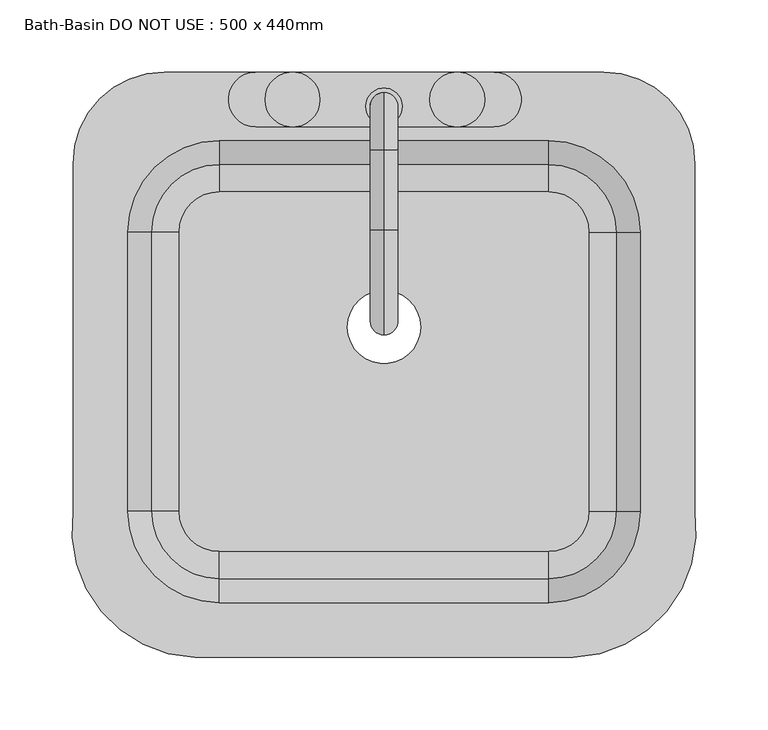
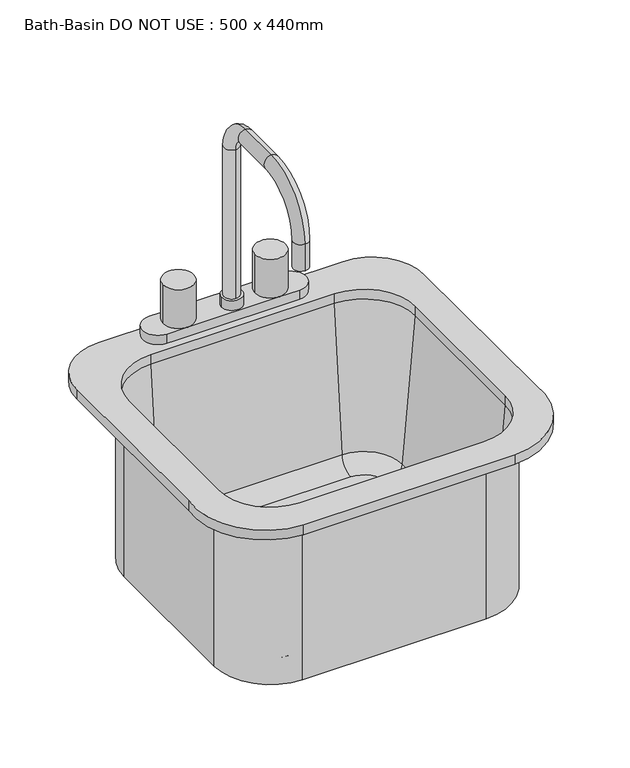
"""IFC4 building model written with IfcOpenShell, lengths in millimetres: flow terminal geometry, Bath-Basin DO NOT USE : 500 x 440mm."""

from ifc_helpers import new_model, si_unit, point, frame, origin, place, context, project, spatial, polyline, circle_curve, ellipse_curve, trimmed, source, transform, mapped, element, save
from ifc_brep_helpers import plane_surface, cylinder_surface, revolved_surface, advanced_brep


def bath_basin_do_not_use_500_x_440mm_190d0d28(model_context):
    return source(origin(), model_context, "Body", "AdvancedBrep", [
        advanced_brep(
        [(199.8392406, 69.0204011, 546.1), (129.9892406, 138.8704011, 546.1), (129.9892406, 138.8704011, 762.0), (199.8392406, 69.0204011, 762.0), (199.8392406, -124.6545989, 546.1), (129.9892406, -194.5045989, 546.1), (-98.6107595, -194.5045989, 546.1), (-168.4607595, -124.6545989, 546.1), (-168.4607595, 69.0204011, 546.1), (-98.6107595, 138.8704011, 546.1), (-9.7107594, 3.175, 546.1), (41.0892406, 3.175, 546.1), (157.9776588, 69.0204011, 555.625), (129.9892406, 97.0088193, 555.625), (-98.6107595, 97.0088193, 555.625), (-126.5991777, 69.0204011, 555.625), (-126.5991777, -124.6545989, 555.625), (-98.6107595, -152.6430171, 555.625), (129.9892406, -152.6430171, 555.625), (157.9776588, -124.6545989, 555.625), (-9.7107594, 3.175, 555.625), (41.0892406, 3.175, 555.625), (176.9551678, 69.0204011, 573.0146831), (129.9892406, 115.9863283, 573.0146831), (193.4892406, 69.0204011, 762.0), (129.9892406, 132.5204011, 762.0), (199.8392406, -124.6545989, 762.0), (176.9551678, -124.6545989, 573.0146831), (193.4892406, -124.6545989, 762.0), (129.9892406, -194.5045989, 762.0), (129.9892406, -171.6205261, 573.0146831), (129.9892406, -188.1545989, 762.0), (-98.6107595, -194.5045989, 762.0), (-98.6107595, -171.6205261, 573.0146831), (-98.6107595, -188.1545989, 762.0), (-168.4607595, -124.6545989, 762.0), (-145.5766867, -124.6545989, 573.0146831), (-162.1107595, -124.6545989, 762.0), (-168.4607595, 69.0204011, 762.0), (-145.5766867, 69.0204011, 573.0146831), (-162.1107595, 69.0204011, 762.0), (-98.6107595, 138.8704011, 762.0), (-98.6107595, 115.9863283, 573.0146831), (-98.6107595, 132.5204011, 762.0), (-115.8606924, -226.2545989, 774.7), (147.2391735, -226.2545989, 774.7), (231.5892406, -124.6545989, 774.7), (231.5892406, 116.6454011, 774.7), (168.0892406, 180.1454011, 774.7), (-136.7107594, 180.1454011, 774.7), (-200.2107594, 116.6454011, 774.7), (-200.2107594, -124.6545982, 774.7), (129.9892406, 132.5204011, 774.7), (193.4892406, 69.0204011, 774.7), (193.4892406, -124.6545989, 774.7), (129.9892406, -188.1545989, 774.7), (-98.6107595, -188.1545989, 774.7), (-162.1107595, -124.6545989, 774.7), (-162.1107595, 69.0204011, 774.7), (-98.6107595, 132.5204011, 774.7), (-115.8606924, -226.2545989, 762.0), (-200.2107594, -124.6545982, 762.0), (-200.2107594, 116.6454011, 762.0), (-136.7107594, 180.1454011, 762.0), (168.0892406, 180.1454011, 762.0), (231.5892406, 116.6454011, 762.0), (231.5892406, -124.6545989, 762.0), (147.2391735, -226.2545989, 762.0)],
        [
            (0, 1, circle_curve(frame((129.9892406, 69.0204011, 546.1), z_axis=(0.0, 0.0, 1.0), x_axis=(0.0, 1.0, 0.0)), 69.85)),
            (1, 2),
            (2, 3, circle_curve(frame((129.9892406, 69.0204011, 762.0), z_axis=(0.0, 0.0, -1.0), x_axis=(0.0, 1.0, 0.0)), 69.85)),
            (3, 0),
            (0, 4),
            (4, 5, circle_curve(frame((129.9892406, -124.6545989, 546.1), z_axis=(0.0, 0.0, -1.0), x_axis=(1.0, 0.0, 0.0)), 69.85)),
            (5, 6),
            (6, 7, circle_curve(frame((-98.6107595, -124.6545989, 546.1), z_axis=(0.0, 0.0, -1.0), x_axis=(0.0, -1.0, 0.0)), 69.85)),
            (7, 8),
            (8, 9, circle_curve(frame((-98.6107595, 69.0204011, 546.1), z_axis=(0.0, 0.0, -1.0), x_axis=(-1.0, 0.0, 0.0)), 69.85)),
            (9, 1),
            (10, 11, circle_curve(frame((15.6892406, 3.175, 546.1), z_axis=(0.0, 0.0, 1.0), x_axis=(1.0, 0.0, 0.0)), 25.4)),
            (11, 10, circle_curve(frame((15.6892406, 3.175, 546.1), z_axis=(0.0, 0.0, 1.0), x_axis=(1.0, 0.0, 0.0)), 25.4)),
            (12, 13, circle_curve(frame((129.9892406, 69.0204011, 555.625), z_axis=(0.0, 0.0, 1.0), x_axis=(0.0, 1.0, 0.0)), 27.9884182)),
            (13, 14),
            (14, 15, circle_curve(frame((-98.6107595, 69.0204011, 555.625), z_axis=(0.0, 0.0, 1.0), x_axis=(-1.0, 0.0, 0.0)), 27.9884182)),
            (15, 16),
            (16, 17, circle_curve(frame((-98.6107595, -124.6545989, 555.625), z_axis=(0.0, 0.0, 1.0), x_axis=(0.0, -1.0, 0.0)), 27.9884182)),
            (17, 18),
            (18, 19, circle_curve(frame((129.9892406, -124.6545989, 555.625), z_axis=(0.0, 0.0, 1.0), x_axis=(1.0, 0.0, 0.0)), 27.9884182)),
            (19, 12),
            (20, 21, circle_curve(frame((15.6892406, 3.175, 555.625), z_axis=(0.0, 0.0, -1.0), x_axis=(1.0, 0.0, 0.0)), 25.4)),
            (21, 20, circle_curve(frame((15.6892406, 3.175, 555.625), z_axis=(0.0, 0.0, -1.0), x_axis=(1.0, 0.0, 0.0)), 25.4)),
            (12, 22, circle_curve(frame((157.9776588, 69.0204011, 574.675), z_axis=(0.0, -1.0, 0.0), x_axis=(1.0, 0.0, 0.0)), 19.05)),
            (22, 23, circle_curve(frame((129.9892406, 69.0204011, 573.0146831), z_axis=(0.0, 0.0, 1.0), x_axis=(0.0, 1.0, 0.0)), 46.9659272)),
            (23, 13, circle_curve(frame((129.9892406, 97.0088193, 574.675), z_axis=(-1.0, 0.0, 0.0), x_axis=(0.0, 1.0, 0.0)), 19.05)),
            (22, 24),
            (24, 25, circle_curve(frame((129.9892406, 69.0204011, 762.0), z_axis=(0.0, 0.0, 1.0), x_axis=(0.0, 1.0, 0.0)), 63.5)),
            (25, 23),
            (3, 26),
            (26, 4),
            (19, 27, circle_curve(frame((157.9776588, -124.6545989, 574.675), z_axis=(0.0, -1.0, 0.0), x_axis=(1.0, 0.0, 0.0)), 19.05)),
            (27, 22),
            (27, 28),
            (28, 24),
            (26, 29, circle_curve(frame((129.9892406, -124.6545989, 762.0), z_axis=(0.0, 0.0, -1.0), x_axis=(1.0, 0.0, 0.0)), 69.85)),
            (29, 5),
            (18, 30, circle_curve(frame((129.9892406, -152.6430171, 574.675), z_axis=(-1.0, 0.0, 0.0), x_axis=(0.0, -1.0, 0.0)), 19.05)),
            (30, 27, circle_curve(frame((129.9892406, -124.6545989, 573.0146831), z_axis=(0.0, 0.0, 1.0), x_axis=(1.0, 0.0, 0.0)), 46.9659272)),
            (30, 31),
            (31, 28, circle_curve(frame((129.9892406, -124.6545989, 762.0), z_axis=(0.0, 0.0, 1.0), x_axis=(1.0, 0.0, 0.0)), 63.5)),
            (29, 32),
            (32, 6),
            (17, 33, circle_curve(frame((-98.6107595, -152.6430171, 574.675), z_axis=(-1.0, 0.0, 0.0), x_axis=(0.0, -1.0, 0.0)), 19.05)),
            (33, 30),
            (33, 34),
            (34, 31),
            (32, 35, circle_curve(frame((-98.6107595, -124.6545989, 762.0), z_axis=(0.0, 0.0, -1.0), x_axis=(0.0, -1.0, 0.0)), 69.85)),
            (35, 7),
            (16, 36, circle_curve(frame((-126.5991777, -124.6545989, 574.675), z_axis=(0.0, 1.0, 0.0), x_axis=(-1.0, 0.0, 0.0)), 19.05)),
            (36, 33, circle_curve(frame((-98.6107595, -124.6545989, 573.0146831), z_axis=(0.0, 0.0, 1.0), x_axis=(0.0, -1.0, 0.0)), 46.9659272)),
            (36, 37),
            (37, 34, circle_curve(frame((-98.6107595, -124.6545989, 762.0), z_axis=(0.0, 0.0, 1.0), x_axis=(0.0, -1.0, 0.0)), 63.5)),
            (35, 38),
            (38, 8),
            (15, 39, circle_curve(frame((-126.5991777, 69.0204011, 574.675), z_axis=(0.0, 1.0, 0.0), x_axis=(-1.0, 0.0, 0.0)), 19.05)),
            (39, 36),
            (39, 40),
            (40, 37),
            (38, 41, circle_curve(frame((-98.6107595, 69.0204011, 762.0), z_axis=(0.0, 0.0, -1.0), x_axis=(-1.0, 0.0, 0.0)), 69.85)),
            (41, 9),
            (14, 42, circle_curve(frame((-98.6107595, 97.0088193, 574.675), z_axis=(1.0, 0.0, 0.0), x_axis=(0.0, 1.0, 0.0)), 19.05)),
            (42, 39, circle_curve(frame((-98.6107595, 69.0204011, 573.0146831), z_axis=(0.0, 0.0, 1.0), x_axis=(-1.0, 0.0, 0.0)), 46.9659272)),
            (42, 43),
            (43, 40, circle_curve(frame((-98.6107595, 69.0204011, 762.0), z_axis=(0.0, 0.0, 1.0), x_axis=(-1.0, 0.0, 0.0)), 63.5)),
            (41, 2),
            (23, 42),
            (25, 43),
            (20, 10),
            (11, 21),
            (44, 45),
            (45, 46, circle_curve(frame((143.4319558, -137.2793432, 774.7), z_axis=(0.0, 0.0, 1.0), x_axis=(1.0, 0.0, 0.0)), 89.0566732)),
            (46, 47),
            (47, 48, circle_curve(frame((168.0892406, 116.6454011, 774.7), z_axis=(0.0, 0.0, 1.0), x_axis=(1.0, 0.0, 0.0)), 63.5)),
            (48, 49),
            (49, 50, circle_curve(frame((-136.7107594, 116.6454011, 774.7), z_axis=(0.0, 0.0, 1.0), x_axis=(1.0, 0.0, 0.0)), 63.5)),
            (50, 51),
            (51, 44, circle_curve(frame((-112.0534746, -137.2793432, 774.7), z_axis=(0.0, 0.0, 1.0), x_axis=(1.0, 0.0, 0.0)), 89.0566732)),
            (52, 53, circle_curve(frame((129.9892406, 69.0204011, 774.7), z_axis=(0.0, 0.0, -1.0), x_axis=(1.0, 0.0, 0.0)), 63.5)),
            (53, 54),
            (54, 55, circle_curve(frame((129.9892406, -124.6545989, 774.7), z_axis=(0.0, 0.0, -1.0), x_axis=(1.0, 0.0, 0.0)), 63.5)),
            (55, 56),
            (56, 57, circle_curve(frame((-98.6107595, -124.6545989, 774.7), z_axis=(0.0, 0.0, -1.0), x_axis=(1.0, 0.0, 0.0)), 63.5)),
            (57, 58),
            (58, 59, circle_curve(frame((-98.6107595, 69.0204011, 774.7), z_axis=(0.0, 0.0, -1.0), x_axis=(1.0, 0.0, 0.0)), 63.5)),
            (59, 52),
            (60, 61, circle_curve(frame((-112.0534746, -137.2793432, 762.0), z_axis=(0.0, 0.0, -1.0), x_axis=(1.0, 0.0, 0.0)), 89.0566732)),
            (61, 62),
            (62, 63, circle_curve(frame((-136.7107594, 116.6454011, 762.0), z_axis=(0.0, 0.0, -1.0), x_axis=(1.0, 0.0, 0.0)), 63.5)),
            (63, 64),
            (64, 65, circle_curve(frame((168.0892406, 116.6454011, 762.0), z_axis=(0.0, 0.0, -1.0), x_axis=(1.0, 0.0, 0.0)), 63.5)),
            (65, 66),
            (66, 67, circle_curve(frame((143.4319558, -137.2793432, 762.0), z_axis=(0.0, 0.0, -1.0), x_axis=(1.0, 0.0, 0.0)), 89.0566732)),
            (67, 60),
            (44, 60),
            (67, 45),
            (66, 46),
            (65, 47),
            (64, 48),
            (63, 49),
            (62, 50),
            (61, 51),
            (52, 25),
            (24, 53),
            (28, 54),
            (31, 55),
            (34, 56),
            (37, 57),
            (40, 58),
            (43, 59),
        ],
        [
            cylinder_surface(frame((129.9892406, 69.0204011, 0.0), z_axis=(0.0, 0.0, -1.0), x_axis=(0.0, 1.0, 0.0)), 69.85),
            plane_surface(frame((129.9892406, 69.0204011, 546.1), z_axis=(0.0, 0.0, -1.0), x_axis=(0.0, 1.0, 0.0))),
            plane_surface(frame((129.9892406, 69.0204011, 555.625), z_axis=(0.0, 0.0, 1.0), x_axis=(0.0, 1.0, 0.0))),
            revolved_surface(trimmed(ellipse_curve(frame((129.9892406, 97.0088193, 574.675), z_axis=(1.0, 0.0, 0.0), x_axis=(0.0, 1.0, 0.0)), 19.05, 19.05), [point((129.9892406, 97.0088193, 555.625))], [point((129.9892406, 115.9863283, 573.0146831))], True, "CARTESIAN"), (129.9892406, 69.0204011, 0.0), (0.0, 0.0, -1.0)),
            revolved_surface(polyline([(129.9892406, 115.9863283, 573.0146831), (129.9892406, 132.5204011, 762.0)]), (129.9892406, 69.0204011, 0.0), (0.0, 0.0, -1.0)),
            plane_surface(frame((199.8392406, 69.0204011, 762.0), z_axis=(1.0, 0.0, 0.0), x_axis=(0.0, -1.0, 0.0))),
            revolved_surface(polyline([(177.0276588, -124.65459890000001, 574.675), (177.0276588, 69.0204011, 574.675)]), (157.9776588, 69.0204011, 574.675), (0.0, -1.0, 0.0)),
            plane_surface(frame((176.9551678, 69.0204011, 573.0146831), z_axis=(-0.9961946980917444, 0.0, 0.08715574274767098), x_axis=(0.0, -1.0, 0.0))),
            cylinder_surface(frame((129.9892406, -124.6545989, 0.0), z_axis=(0.0, 0.0, -1.0), x_axis=(1.0, 0.0, 0.0)), 69.85),
            revolved_surface(trimmed(ellipse_curve(frame((157.9776588, -124.6545989, 574.675), z_axis=(0.0, -1.0, 0.0), x_axis=(1.0, 0.0, 0.0)), 19.05, 19.05), [point((157.9776588, -124.6545989, 555.625))], [point((176.9551678, -124.6545989, 573.0146831))], True, "CARTESIAN"), (129.9892406, -124.6545989, 0.0), (0.0, 0.0, -1.0)),
            revolved_surface(polyline([(176.9551678, -124.6545989, 573.0146831), (193.4892406, -124.6545989, 762.0)]), (129.9892406, -124.6545989, 0.0), (0.0, 0.0, -1.0)),
            plane_surface(frame((129.9892406, -194.5045989, 762.0), z_axis=(0.0, -1.0, 0.0), x_axis=(-1.0, 0.0, 0.0))),
            revolved_surface(polyline([(-98.6107595, -171.69301710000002, 574.675), (129.9892406, -171.69301710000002, 574.675)]), (129.9892406, -152.6430171, 574.675), (-1.0, 0.0, 0.0)),
            plane_surface(frame((129.9892406, -171.6205261, 573.0146831), z_axis=(0.0, 0.9961946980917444, 0.08715574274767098), x_axis=(-1.0, 0.0, 0.0))),
            cylinder_surface(frame((-98.6107595, -124.6545989, 0.0), z_axis=(0.0, 0.0, -1.0), x_axis=(0.0, -1.0, 0.0)), 69.85),
            revolved_surface(trimmed(ellipse_curve(frame((-98.6107595, -152.6430171, 574.675), z_axis=(-1.0, 0.0, 0.0), x_axis=(0.0, -1.0, 0.0)), 19.05, 19.05), [point((-98.6107595, -152.6430171, 555.625))], [point((-98.6107595, -171.6205261, 573.0146831))], True, "CARTESIAN"), (-98.6107595, -124.6545989, 0.0), (0.0, 0.0, -1.0)),
            revolved_surface(polyline([(-98.6107595, -171.6205261, 573.0146831), (-98.6107595, -188.1545989, 762.0)]), (-98.6107595, -124.6545989, 0.0), (0.0, 0.0, -1.0)),
            plane_surface(frame((-168.4607595, -124.6545989, 762.0), z_axis=(-1.0, 0.0, 0.0), x_axis=(0.0, 1.0, 0.0))),
            revolved_surface(polyline([(-145.6491777, 69.02040110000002, 574.675), (-145.6491777, -124.6545989, 574.675)]), (-126.5991777, -124.6545989, 574.675), (0.0, 1.0, 0.0)),
            plane_surface(frame((-145.5766867, -124.6545989, 573.0146831), z_axis=(0.9961946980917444, 0.0, 0.08715574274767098), x_axis=(0.0, 1.0, 0.0))),
            cylinder_surface(frame((-98.6107595, 69.0204011, 0.0), z_axis=(0.0, 0.0, -1.0), x_axis=(-1.0, 0.0, 0.0)), 69.85),
            revolved_surface(trimmed(ellipse_curve(frame((-126.5991777, 69.0204011, 574.675), z_axis=(0.0, 1.0, 0.0), x_axis=(-1.0, 0.0, 0.0)), 19.05, 19.05), [point((-126.5991777, 69.0204011, 555.625))], [point((-145.5766867, 69.0204011, 573.0146831))], True, "CARTESIAN"), (-98.6107595, 69.0204011, 0.0), (0.0, 0.0, -1.0)),
            revolved_surface(polyline([(-145.5766867, 69.0204011, 573.0146831), (-162.1107595, 69.0204011, 762.0)]), (-98.6107595, 69.0204011, 0.0), (0.0, 0.0, -1.0)),
            plane_surface(frame((-98.6107595, 138.8704011, 762.0), z_axis=(0.0, 1.0, 0.0), x_axis=(1.0, 0.0, 0.0))),
            revolved_surface(polyline([(129.9892406, 116.0588193, 574.675), (-98.6107595, 116.0588193, 574.675)]), (-98.6107595, 97.0088193, 574.675), (1.0, 0.0, 0.0)),
            plane_surface(frame((-98.6107595, 115.9863283, 573.0146831), z_axis=(0.0, -0.9961946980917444, 0.08715574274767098), x_axis=(1.0, 0.0, 0.0))),
            revolved_surface(polyline([(41.0892406, 3.175, 546.1), (41.0892406, 3.175, 555.625)]), (15.6892406, 3.175, 0.0), (0.0, 0.0, -1.0)),
            plane_surface(frame((147.2391735, -226.2545989, 774.7), z_axis=(0.0, 0.0, 1.0), x_axis=(1.0, 0.0, 0.0))),
            plane_surface(frame((147.2391735, -226.2545989, 762.0), z_axis=(0.0, 0.0, -1.0), x_axis=(-1.0, 0.0, 0.0))),
            plane_surface(frame((-115.8606924, -226.2545989, 774.7), z_axis=(0.0, -1.0, 0.0), x_axis=(0.0, 0.0, -1.0))),
            cylinder_surface(frame((143.4319558, -137.2793432, 762.0), z_axis=(0.0, 0.0, 1.0), x_axis=(1.0, 0.0, 0.0)), 89.0566732),
            plane_surface(frame((231.5892406, -124.6545989, 774.7), z_axis=(1.0, 0.0, 0.0), x_axis=(0.0, 0.0, -1.0))),
            cylinder_surface(frame((168.0892406, 116.6454011, 762.0), z_axis=(0.0, 0.0, 1.0), x_axis=(1.0, 0.0, 0.0)), 63.5),
            plane_surface(frame((168.0892406, 180.1454011, 774.7), z_axis=(0.0, 1.0, 0.0), x_axis=(0.0, 0.0, -1.0))),
            cylinder_surface(frame((-136.7107594, 116.6454011, 762.0), z_axis=(0.0, 0.0, 1.0), x_axis=(1.0, 0.0, 0.0)), 63.5),
            plane_surface(frame((-200.2107594, 116.6454011, 774.7), z_axis=(-1.0, 0.0, 0.0), x_axis=(0.0, 0.0, -1.0))),
            cylinder_surface(frame((-112.0534746, -137.2793432, 762.0), z_axis=(0.0, 0.0, 1.0), x_axis=(1.0, 0.0, 0.0)), 89.0566732),
            revolved_surface(polyline([(193.4892406, 69.0204011, 762.0), (193.4892406, 69.0204011, 774.7)]), (129.9892406, 69.0204011, 0.0), (0.0, 0.0, -1.0)),
            plane_surface(frame((193.4892406, 69.0204011, 774.7), z_axis=(-1.0, 0.0, 0.0), x_axis=(0.0, 0.0, -1.0))),
            revolved_surface(polyline([(193.4892406, -124.6545989, 762.0), (193.4892406, -124.6545989, 774.7)]), (129.9892406, -124.6545989, 0.0), (0.0, 0.0, -1.0)),
            plane_surface(frame((129.9892406, -188.1545989, 774.7), z_axis=(0.0, 1.0, 0.0), x_axis=(0.0, 0.0, -1.0))),
            revolved_surface(polyline([(-35.1107595, -124.6545989, 762.0), (-35.1107595, -124.6545989, 774.7)]), (-98.6107595, -124.6545989, 0.0), (0.0, 0.0, -1.0)),
            plane_surface(frame((-162.1107595, -124.6545989, 774.7), z_axis=(1.0, 0.0, 0.0), x_axis=(0.0, 0.0, -1.0))),
            revolved_surface(polyline([(-35.1107595, 69.0204011, 762.0), (-35.1107595, 69.0204011, 774.7)]), (-98.6107595, 69.0204011, 0.0), (0.0, 0.0, -1.0)),
            plane_surface(frame((-98.6107595, 132.5204011, 774.7), z_axis=(0.0, -1.0, 0.0), x_axis=(0.0, 0.0, -1.0))),
        ],
        [
            (0, [[1, 2, 3, 4]]),
            (1, [[-1, 5, 6, 7, 8, 9, 10, 11], [12, 13]]),
            (2, [[14, 15, 16, 17, 18, 19, 20, 21], [22, 23]]),
            (3, [[-14, 24, 25, 26]]),
            (4, [[-25, 27, 28, 29]]),
            (5, [[-4, 30, 31, -5]]),
            (6, [[-24, -21, 32, 33]]),
            (7, [[-27, -33, 34, 35]]),
            (8, [[-31, 36, 37, -6]]),
            (9, [[-32, -20, 38, 39]]),
            (10, [[-34, -39, 40, 41]]),
            (11, [[-37, 42, 43, -7]]),
            (12, [[-38, -19, 44, 45]]),
            (13, [[-40, -45, 46, 47]]),
            (14, [[-43, 48, 49, -8]]),
            (15, [[-44, -18, 50, 51]]),
            (16, [[-46, -51, 52, 53]]),
            (17, [[-49, 54, 55, -9]]),
            (18, [[-50, -17, 56, 57]]),
            (19, [[-52, -57, 58, 59]]),
            (20, [[-55, 60, 61, -10]]),
            (21, [[-56, -16, 62, 63]]),
            (22, [[-58, -63, 64, 65]]),
            (23, [[-2, -11, -61, 66]]),
            (24, [[-26, 67, -62, -15]]),
            (25, [[-29, 68, -64, -67]]),
            (26, [[-22, 69, -13, 70]]),
            (26, [[-23, -70, -12, -69]]),
            (27, [[71, 72, 73, 74, 75, 76, 77, 78], [79, 80, 81, 82, 83, 84, 85, 86]]),
            (28, [[87, 88, 89, 90, 91, 92, 93, 94], [-3, -66, -60, -54, -48, -42, -36, -30]]),
            (29, [[-71, 95, -94, 96]]),
            (30, [[-72, -96, -93, 97]]),
            (31, [[-73, -97, -92, 98]]),
            (32, [[-74, -98, -91, 99]]),
            (33, [[-75, -99, -90, 100]]),
            (34, [[-76, -100, -89, 101]]),
            (35, [[-77, -101, -88, 102]]),
            (36, [[-78, -102, -87, -95]]),
            (37, [[-79, 103, -28, 104]]),
            (38, [[-80, -104, -35, 105]]),
            (39, [[-81, -105, -41, 106]]),
            (40, [[-82, -106, -47, 107]]),
            (41, [[-83, -107, -53, 108]]),
            (42, [[-84, -108, -59, 109]]),
            (43, [[-85, -109, -65, 110]]),
            (44, [[-86, -110, -68, -103]]),
        ],
    ),
        advanced_brep(
        [(91.8892406, 180.1454011, 774.7), (91.8892406, 142.0454011, 774.7), (66.4892406, 142.0454011, 774.7), (-47.8107594, 142.0454011, 774.7), (-73.2107594, 142.0454011, 774.7), (-73.2107594, 180.1454011, 774.7), (-47.8107594, 180.1454011, 774.7), (66.4892406, 180.1454011, 774.7), (15.6892406, 165.8579011, 995.3625), (15.6892406, 146.8079011, 995.3625), (15.6892406, 146.8079011, 800.1), (15.6892406, 165.8579011, 800.1), (15.6892406, 126.1704011, 1035.05), (15.6892406, 126.1704011, 1016.0), (15.6892406, 70.6079011, 1035.05), (15.6892406, 70.6079011, 1016.0), (15.6892406, -2.4170989, 962.025), (15.6892406, 16.6329011, 962.025), (15.6892406, -2.4170989, 927.1), (15.6892406, 16.6329011, 927.1), (2.9892406, 156.3329011, 800.1), (28.3892406, 156.3329011, 800.1), (2.9892406, 156.3329011, 787.2), (28.3892406, 156.3329011, 787.2), (-73.2107594, 180.1454011, 787.2), (-73.2107594, 142.0454011, 787.2), (-47.8107594, 142.0454011, 787.2), (-66.8607594, 161.0954011, 787.2), (-47.8107594, 180.1454011, 787.2), (91.8892406, 142.0454011, 787.2), (91.8892406, 180.1454011, 787.2), (66.4892406, 180.1454011, 787.2), (85.5392406, 161.0954011, 787.2), (66.4892406, 142.0454011, 787.2), (-28.7607594, 161.0954011, 787.2), (47.4392406, 161.0954011, 787.2), (-66.8607594, 161.0954011, 838.2), (-28.7607594, 161.0954011, 838.2), (47.4392406, 161.0954011, 838.2), (85.5392406, 161.0954011, 838.2)],
        [
            (0, 1, circle_curve(frame((91.8892406, 161.0954011, 774.7), z_axis=(0.0, 0.0, -1.0), x_axis=(1.0, 0.0, 0.0)), 19.05)),
            (1, 2),
            (2, 3),
            (3, 4),
            (4, 5, circle_curve(frame((-73.2107594, 161.0954011, 774.7), z_axis=(0.0, 0.0, -1.0), x_axis=(1.0, 0.0, 0.0)), 19.05)),
            (5, 6),
            (6, 7),
            (7, 0),
            (8, 9, circle_curve(frame((15.6892406, 156.3329011, 995.3625), z_axis=(0.0, 0.0, -1.0), x_axis=(0.0, -1.0, 0.0)), 9.525)),
            (9, 10),
            (10, 11, circle_curve(frame((15.6892406, 156.3329011, 800.1), z_axis=(0.0, 0.0, 1.0), x_axis=(0.0, -1.0, 0.0)), 9.525)),
            (11, 8),
            (9, 8, circle_curve(frame((15.6892406, 156.3329011, 995.3625), z_axis=(0.0, 0.0, -1.0), x_axis=(0.0, -1.0, 0.0)), 9.525)),
            (11, 10, circle_curve(frame((15.6892406, 156.3329011, 800.1), z_axis=(0.0, 0.0, 1.0), x_axis=(0.0, -1.0, 0.0)), 9.525)),
            (8, 12, circle_curve(frame((15.6892406, 126.1704011, 995.3625), z_axis=(1.0, 0.0, 0.0), x_axis=(0.0, 1.0, 0.0)), 39.6875)),
            (12, 13, circle_curve(frame((15.6892406, 126.1704011, 1025.525), z_axis=(0.0, 1.0, 0.0), x_axis=(0.0, 0.0, -1.0)), 9.525)),
            (13, 9, circle_curve(frame((15.6892406, 126.1704011, 995.3625), z_axis=(-1.0, 0.0, 0.0), x_axis=(0.0, 1.0, 0.0)), 20.6375)),
            (13, 12, circle_curve(frame((15.6892406, 126.1704011, 1025.525), z_axis=(0.0, 1.0, 0.0), x_axis=(0.0, 0.0, -1.0)), 9.525)),
            (12, 14),
            (14, 15, circle_curve(frame((15.6892406, 70.6079011, 1025.525), z_axis=(0.0, 1.0, 0.0), x_axis=(0.0, 0.0, -1.0)), 9.525)),
            (15, 13),
            (15, 14, circle_curve(frame((15.6892406, 70.6079011, 1025.525), z_axis=(0.0, 1.0, 0.0), x_axis=(0.0, 0.0, -1.0)), 9.525)),
            (14, 16, circle_curve(frame((15.6892406, 70.6079011, 962.025), z_axis=(1.0, 0.0, 0.0), x_axis=(0.0, 0.0, 1.0)), 73.025)),
            (16, 17, circle_curve(frame((15.6892406, 7.1079011, 962.025), z_axis=(0.0, 0.0, 1.0), x_axis=(0.0, 1.0, 0.0)), 9.525)),
            (17, 15, circle_curve(frame((15.6892406, 70.6079011, 962.025), z_axis=(-1.0, 0.0, 0.0), x_axis=(0.0, 0.0, 1.0)), 53.975)),
            (17, 16, circle_curve(frame((15.6892406, 7.1079011, 962.025), z_axis=(0.0, 0.0, 1.0), x_axis=(0.0, 1.0, 0.0)), 9.525)),
            (18, 19, circle_curve(frame((15.6892406, 7.1079011, 927.1), z_axis=(0.0, 0.0, -1.0), x_axis=(0.0, 1.0, 0.0)), 9.525)),
            (19, 18, circle_curve(frame((15.6892406, 7.1079011, 927.1), z_axis=(0.0, 0.0, -1.0), x_axis=(0.0, 1.0, 0.0)), 9.525)),
            (16, 18),
            (19, 17),
            (20, 21, circle_curve(frame((15.6892406, 156.3329011, 800.1), z_axis=(0.0, 0.0, 1.0), x_axis=(1.0, 0.0, 0.0)), 12.7)),
            (21, 20, circle_curve(frame((15.6892406, 156.3329011, 800.1), z_axis=(0.0, 0.0, 1.0), x_axis=(1.0, 0.0, 0.0)), 12.7)),
            (20, 22),
            (22, 23, circle_curve(frame((15.6892406, 156.3329011, 787.2), z_axis=(0.0, 0.0, 1.0), x_axis=(1.0, 0.0, 0.0)), 12.7)),
            (23, 21),
            (23, 22, circle_curve(frame((15.6892406, 156.3329011, 787.2), z_axis=(0.0, 0.0, 1.0), x_axis=(1.0, 0.0, 0.0)), 12.7)),
            (24, 25, circle_curve(frame((-73.2107594, 161.0954011, 787.2), z_axis=(0.0, 0.0, 1.0), x_axis=(1.0, 0.0, 0.0)), 19.05)),
            (25, 26),
            (26, 27, circle_curve(frame((-47.8107594, 161.0954011, 787.2), z_axis=(0.0, 0.0, -1.0), x_axis=(1.0, 0.0, 0.0)), 19.05)),
            (27, 28, circle_curve(frame((-47.8107594, 161.0954011, 787.2), z_axis=(0.0, 0.0, -1.0), x_axis=(1.0, 0.0, 0.0)), 19.05)),
            (28, 24),
            (29, 30, circle_curve(frame((91.8892406, 161.0954011, 787.2), z_axis=(0.0, 0.0, 1.0), x_axis=(1.0, 0.0, 0.0)), 19.05)),
            (30, 31),
            (31, 32, circle_curve(frame((66.4892406, 161.0954011, 787.2), z_axis=(0.0, 0.0, -1.0), x_axis=(1.0, 0.0, 0.0)), 19.05)),
            (32, 33, circle_curve(frame((66.4892406, 161.0954011, 787.2), z_axis=(0.0, 0.0, -1.0), x_axis=(1.0, 0.0, 0.0)), 19.05)),
            (33, 29),
            (31, 28),
            (28, 34, circle_curve(frame((-47.8107594, 161.0954011, 787.2), z_axis=(0.0, 0.0, -1.0), x_axis=(1.0, 0.0, 0.0)), 19.05)),
            (34, 26, circle_curve(frame((-47.8107594, 161.0954011, 787.2), z_axis=(0.0, 0.0, -1.0), x_axis=(1.0, 0.0, 0.0)), 19.05)),
            (26, 33),
            (33, 35, circle_curve(frame((66.4892406, 161.0954011, 787.2), z_axis=(0.0, 0.0, -1.0), x_axis=(1.0, 0.0, 0.0)), 19.05)),
            (35, 31, circle_curve(frame((66.4892406, 161.0954011, 787.2), z_axis=(0.0, 0.0, -1.0), x_axis=(1.0, 0.0, 0.0)), 19.05)),
            (30, 0),
            (5, 24),
            (4, 25),
            (1, 29),
            (36, 37, circle_curve(frame((-47.8107594, 161.0954011, 838.2), z_axis=(0.0, 0.0, 1.0), x_axis=(1.0, 0.0, 0.0)), 19.05)),
            (37, 36, circle_curve(frame((-47.8107594, 161.0954011, 838.2), z_axis=(0.0, 0.0, 1.0), x_axis=(1.0, 0.0, 0.0)), 19.05)),
            (38, 39, circle_curve(frame((66.4892406, 161.0954011, 838.2), z_axis=(0.0, 0.0, 1.0), x_axis=(1.0, 0.0, 0.0)), 19.05)),
            (39, 38, circle_curve(frame((66.4892406, 161.0954011, 838.2), z_axis=(0.0, 0.0, 1.0), x_axis=(1.0, 0.0, 0.0)), 19.05)),
            (36, 27),
            (34, 37),
            (38, 35),
            (32, 39),
        ],
        [
            plane_surface(frame((15.6892406, 146.8079011, 774.7), z_axis=(0.0, 0.0, -1.0), x_axis=(1.0, 0.0, 0.0))),
            cylinder_surface(frame((15.6892406, 156.3329011, 774.7), z_axis=(0.0, 0.0, -1.0), x_axis=(0.0, -1.0, 0.0)), 9.525),
            revolved_surface(trimmed(ellipse_curve(frame((15.6892406, 156.3329011, 995.3625), z_axis=(0.0, 0.0, -1.0), x_axis=(0.0, -1.0, 0.0)), 9.525, 9.525), [point((15.6892406, 165.8579011, 995.3625))], [point((15.6892406, 146.8079011, 995.3625))], True, "CARTESIAN"), (15.6892406, 126.1704011, 995.3625), (1.0, 0.0, 0.0)),
            revolved_surface(trimmed(ellipse_curve(frame((15.6892406, 156.3329011, 995.3625), z_axis=(0.0, 0.0, -1.0), x_axis=(0.0, -1.0, 0.0)), 9.525, 9.525), [point((15.6892406, 146.8079011, 995.3625))], [point((15.6892406, 165.8579011, 995.3625))], True, "CARTESIAN"), (15.6892406, 126.1704011, 995.3625), (1.0, 0.0, 0.0)),
            cylinder_surface(frame((15.6892406, 126.1704011, 1025.525), z_axis=(0.0, 1.0, 0.0), x_axis=(0.0, 0.0, -1.0)), 9.525),
            revolved_surface(trimmed(ellipse_curve(frame((15.6892406, 70.6079011, 1025.525), z_axis=(0.0, 1.0, 0.0), x_axis=(0.0, 0.0, -1.0)), 9.525, 9.525), [point((15.6892406, 70.6079011, 1035.05))], [point((15.6892406, 70.6079011, 1016.0))], True, "CARTESIAN"), (15.6892406, 70.6079011, 962.025), (1.0, 0.0, 0.0)),
            revolved_surface(trimmed(ellipse_curve(frame((15.6892406, 70.6079011, 1025.525), z_axis=(0.0, 1.0, 0.0), x_axis=(0.0, 0.0, -1.0)), 9.525, 9.525), [point((15.6892406, 70.6079011, 1016.0))], [point((15.6892406, 70.6079011, 1035.05))], True, "CARTESIAN"), (15.6892406, 70.6079011, 962.025), (1.0, 0.0, 0.0)),
            plane_surface(frame((15.6892406, -2.4170989, 927.1), z_axis=(0.0, 0.0, -1.0), x_axis=(-1.0, 0.0, 0.0))),
            cylinder_surface(frame((15.6892406, 7.1079011, 962.025), z_axis=(0.0, 0.0, 1.0), x_axis=(0.0, 1.0, 0.0)), 9.525),
            plane_surface(frame((28.3892406, 156.3329011, 800.1), z_axis=(0.0, 0.0, 1.0), x_axis=(0.0, 1.0, 0.0))),
            cylinder_surface(frame((15.6892406, 156.3329011, 774.7), z_axis=(0.0, 0.0, 1.0), x_axis=(1.0, 0.0, 0.0)), 12.7),
            plane_surface(frame((-73.2107594, 180.1454011, 787.2), z_axis=(0.0, 0.0, 1.0), x_axis=(-1.0, 0.0, 0.0))),
            plane_surface(frame((91.8892406, 180.1454011, 787.2), z_axis=(0.0, 1.0, 0.0), x_axis=(0.0, 0.0, -1.0))),
            cylinder_surface(frame((-73.2107594, 161.0954011, 774.7), z_axis=(0.0, 0.0, 1.0), x_axis=(1.0, 0.0, 0.0)), 19.05),
            plane_surface(frame((-73.2107594, 142.0454011, 787.2), z_axis=(0.0, -1.0, 0.0), x_axis=(0.0, 0.0, -1.0))),
            cylinder_surface(frame((91.8892406, 161.0954011, 774.7), z_axis=(0.0, 0.0, 1.0), x_axis=(1.0, 0.0, 0.0)), 19.05),
            plane_surface(frame((-28.7607594, 161.0954011, 838.2), z_axis=(0.0, 0.0, 1.0), x_axis=(0.0, 1.0, 0.0))),
            cylinder_surface(frame((-47.8107594, 161.0954011, 774.7), z_axis=(0.0, 0.0, 1.0), x_axis=(1.0, 0.0, 0.0)), 19.05),
            cylinder_surface(frame((66.4892406, 161.0954011, 0.0), z_axis=(0.0, 0.0, 1.0), x_axis=(1.0, 0.0, 0.0)), 19.05),
        ],
        [
            (0, [[1, 2, 3, 4, 5, 6, 7, 8]]),
            (1, [[9, 10, 11, 12]]),
            (1, [[13, -12, 14, -10]]),
            (2, [[-9, 15, 16, 17]]),
            (3, [[-13, -17, 18, -15]]),
            (4, [[-16, 19, 20, 21]]),
            (4, [[-18, -21, 22, -19]]),
            (5, [[-20, 23, 24, 25]]),
            (6, [[-22, -25, 26, -23]]),
            (7, [[27, 28]]),
            (8, [[-24, 29, -28, 30]]),
            (8, [[-26, -30, -27, -29]]),
            (9, [[31, 32], [-11, -14]]),
            (10, [[-31, 33, 34, 35]]),
            (10, [[-32, -35, 36, -33]]),
            (11, [[37, 38, 39, 40, 41]]),
            (11, [[42, 43, 44, 45, 46]]),
            (11, [[47, 48, 49, 50, 51, 52], [-34, -36]]),
            (12, [[53, -8, -7, -6, 54, -41, -47, -43]]),
            (13, [[-37, -54, -5, 55]]),
            (14, [[-55, -4, -3, -2, 56, -46, -50, -38]]),
            (15, [[-42, -56, -1, -53]]),
            (16, [[57, 58]]),
            (16, [[59, 60]]),
            (17, [[-57, 61, -39, -49, 62]]),
            (17, [[-58, -62, -48, -40, -61]]),
            (18, [[-59, 63, -51, -45, 64]]),
            (18, [[-60, -64, -44, -52, -63]]),
        ],
    ),
    ])


if __name__ == "__main__":
    model = new_model("IFC4")
    model_context = context("Model", 3, world=origin())
    ifc_project = project(units=[si_unit("LENGTHUNIT", "METRE", prefix="MILLI")], contexts=[model_context])
    site = spatial("IfcSite", under=ifc_project)
    building = spatial("IfcBuilding", under=site)
    placement = place(None, origin())
    bath_basin_do_not_use_500_x_440mm_shape = bath_basin_do_not_use_500_x_440mm_190d0d28(model_context)
    element("IfcFlowTerminal", 1, ObjectType="Bath-Basin DO NOT USE : 500 x 440mm", at=placement, inside=building, context=model_context, shape_type="MappedRepresentation", body=[
        mapped(bath_basin_do_not_use_500_x_440mm_shape, transform((0.0, 0.0, 0.0), x_axis=(1.0, 0.0, 0.0), y_axis=(0.0, 1.0, 0.0), z_axis=(0.0, 0.0, 1.0))),
    ])
    save(model, "model.ifc")
